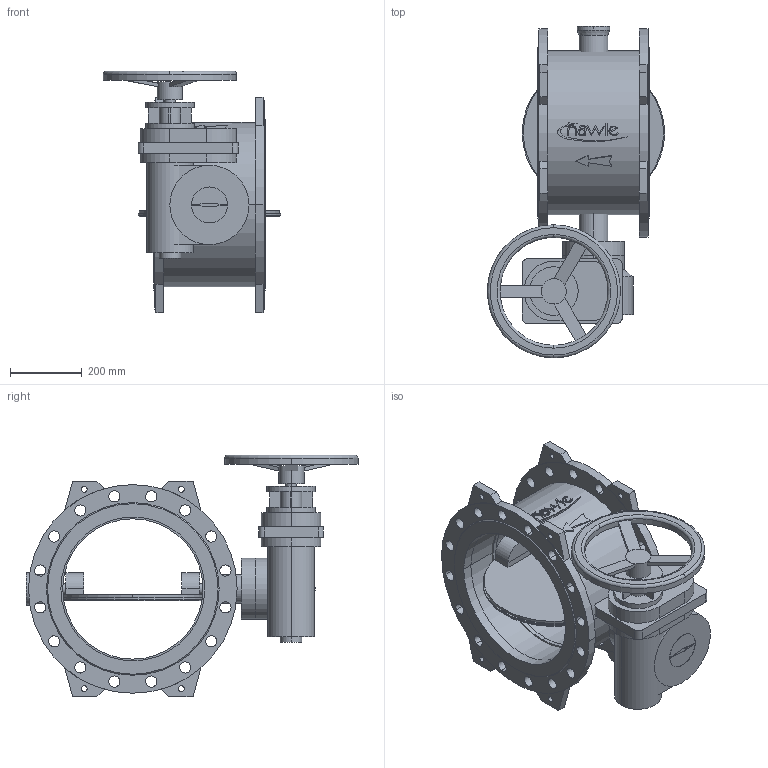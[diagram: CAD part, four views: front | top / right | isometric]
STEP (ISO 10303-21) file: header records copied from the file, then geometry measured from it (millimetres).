
FILE_DESCRIPTION(('STEP AP214'),'1');
FILE_NAME('S:/EK/USER/CAT6/3DHomepage_27-04-2012/neu_08-01-2013/9881K/9881K_PN16_DN400_7800.STP','2013-02-26T15:27:29',(' '),(' '),'Spatial InterOp 3D',' ',' ');
FILE_SCHEMA(('automotive_design'));
Length unit declared in the file: millimetre
Products named in the file (53): 3D-Objekt
Bounding box: 493 x 923 x 672 mm (x, y, z)
Volume: 38400718.2 mm3; surface area: 3364645.8 mm2
Topology: 53 solids, 53 shells, 443 faces, 1004 edges, 670 vertices
Faces by surface type: plane 230, cylinder 201, cone 8, torus 4
Entity records: 17543 total; most frequent: DIRECTION 2444, CARTESIAN_POINT 2170, ORIENTED_EDGE 2008, EDGE_CURVE 1004, AXIS2_PLACEMENT_3D 944, VERTEX_POINT 670, LINE 556, VECTOR 556
